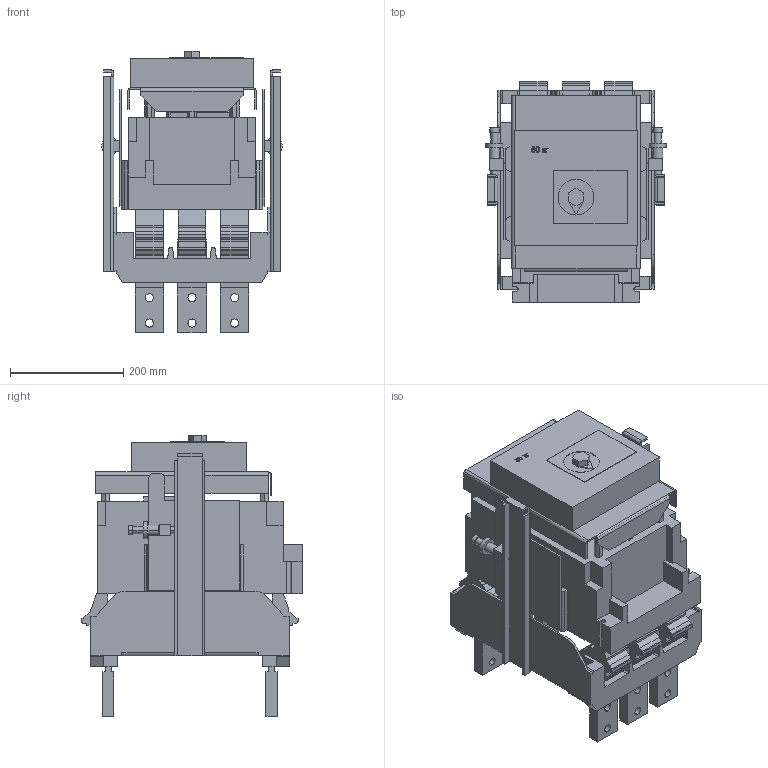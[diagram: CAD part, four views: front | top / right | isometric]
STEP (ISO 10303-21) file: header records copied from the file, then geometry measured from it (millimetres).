
FILE_DESCRIPTION (( 'STEP AP214' ), '1' );
FILE_NAME ('ÂÀ52(56)-41 ÂÈ ñ ÝÌ ïðèâîäîì.STEP', '2023-02-13T11:22:07', ( 'user' ), ( '' ), 'SwSTEP 2.0', 'SolidWorks 2018', '' );
FILE_SCHEMA (( 'AUTOMOTIVE_DESIGN' ));
Length unit declared in the file: millimetre
Products named in the file (1): ÂÀ52(56)-41 ÂÈ ñ ÝÌ ïðèâîäîì
Bounding box: 318 x 388.65 x 496.15 mm (x, y, z)
Volume: 18764034.1 mm3; surface area: 1400213.4 mm2
Topology: 1 solids, 1 shells, 840 faces, 2474 edges, 1649 vertices
Faces by surface type: plane 604, cylinder 229, cone 7
Entity records: 28407 total; most frequent: CARTESIAN_POINT 5439, ORIENTED_EDGE 4940, DIRECTION 4581, EDGE_CURVE 2470, LINE 1967, VECTOR 1967, VERTEX_POINT 1649, AXIS2_PLACEMENT_3D 1307
